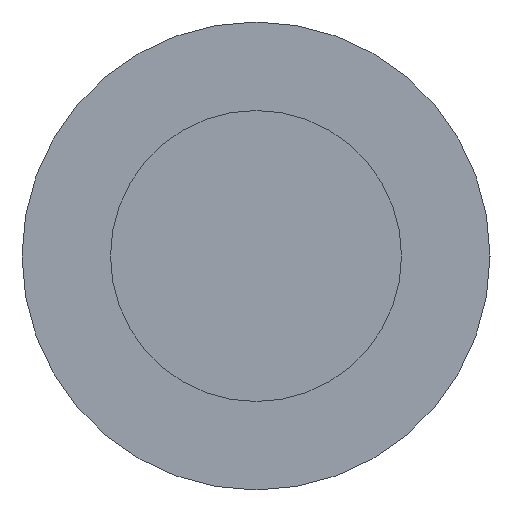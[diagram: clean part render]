
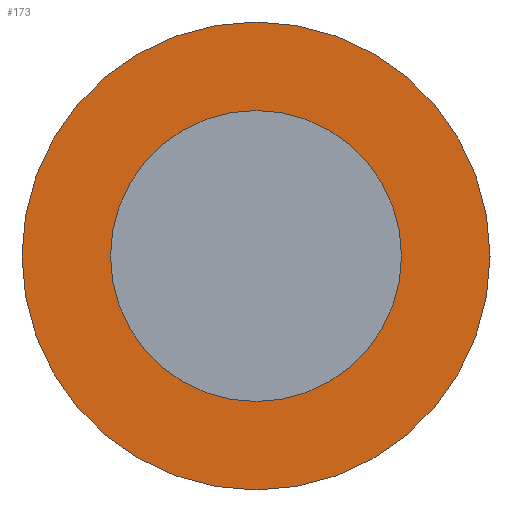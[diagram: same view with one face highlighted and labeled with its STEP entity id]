
A CAD part, left-side view. The second image highlights one B-rep face of the part: STEP entity #173.
In plain terms, the highlighted planar face has unit normal (-1, 0, 0).
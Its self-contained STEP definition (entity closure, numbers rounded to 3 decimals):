
#173 = ADVANCED_FACE( '', ( #443, #444 ), #445, .T. );
#443 = FACE_OUTER_BOUND( '', #868, .T. );
#444 = FACE_BOUND( '', #869, .T. );
#445 = PLANE( '', #870 );
#868 = EDGE_LOOP( '', ( #1331 ) );
#869 = EDGE_LOOP( '', ( #1332 ) );
#870 = AXIS2_PLACEMENT_3D( '', #1333, #1334, #1335 );
#1331 = ORIENTED_EDGE( '', *, *, #1886, .T. );
#1332 = ORIENTED_EDGE( '', *, *, #1887, .F. );
#1333 = CARTESIAN_POINT( '', ( -125., 0., 17.1 ) );
#1334 = DIRECTION( '', ( -1., 0., 0. ) );
#1335 = DIRECTION( '', ( 0., 0., 1. ) );
#1886 = EDGE_CURVE( '', #2131, #2131, #2132, .T. );
#1887 = EDGE_CURVE( '', #2133, #2133, #2134, .T. );
#2131 = VERTEX_POINT( '', #2444 );
#2132 = CIRCLE( '', #2445, 27.5 );
#2133 = VERTEX_POINT( '', #2446 );
#2134 = CIRCLE( '', #2447, 17.1 );
#2444 = CARTESIAN_POINT( '', ( -125., 0., 27.5 ) );
#2445 = AXIS2_PLACEMENT_3D( '', #2770, #2771, #2772 );
#2446 = CARTESIAN_POINT( '', ( -125., 0., 17.1 ) );
#2447 = AXIS2_PLACEMENT_3D( '', #2773, #2774, #2775 );
#2770 = CARTESIAN_POINT( '', ( -125., 0., 0. ) );
#2771 = DIRECTION( '', ( -1., 0., 0. ) );
#2772 = DIRECTION( '', ( 0., 0., 1. ) );
#2773 = CARTESIAN_POINT( '', ( -125., 0., 0. ) );
#2774 = DIRECTION( '', ( -1., 0., 0. ) );
#2775 = DIRECTION( '', ( 0., 0., 1. ) );
